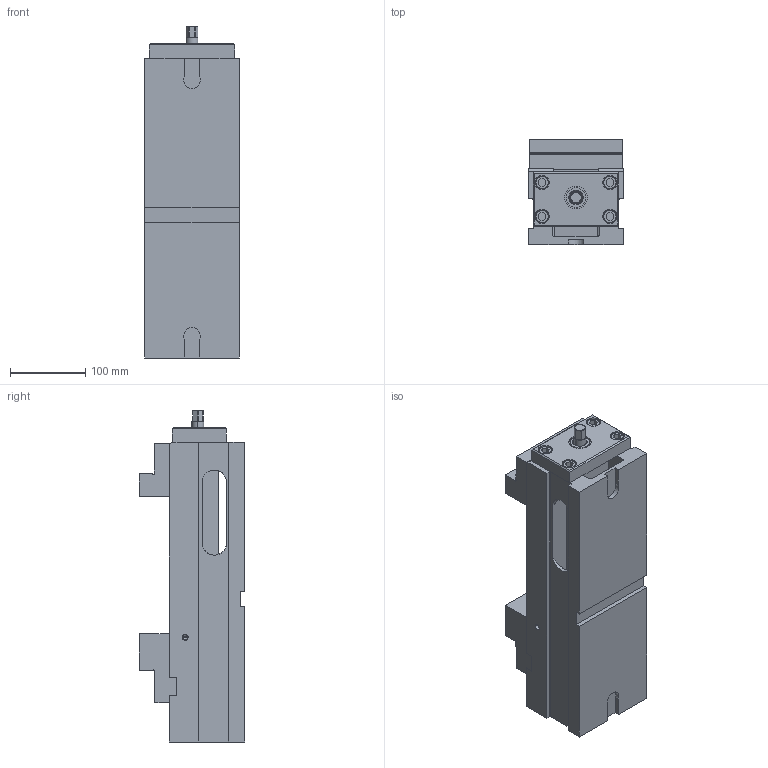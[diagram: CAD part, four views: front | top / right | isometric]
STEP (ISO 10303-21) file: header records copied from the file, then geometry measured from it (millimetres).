
FILE_DESCRIPTION((''),'2;1');
FILE_NAME('FG_VC_HIPR_00NC4NP001_ASM','2026-03-16T11:54:17',('Admin'),(''),'CREO PARAMETRIC BY PTC INC, 2025010','CREO PARAMETRIC BY PTC INC, 2025010','');
FILE_SCHEMA(('CONFIG_CONTROL_DESIGN'));
Length unit declared in the file: millimetre
Products named in the file (7): LC125_MACH; 3D-6921118000155-200; FG_VC_HIPR_C0055NP001; 3D-6921111001042; FG_VC_HIPR_C0054NP001; DIN912-M12X25-12_9; FG_VC_HIPR_00NC4NP001_ASM
Assembly tree (17 placements, depth 2):
  FG_VC_HIPR_00NC4NP001_ASM
    LC125_MACH
    3D-6921118000155-200
    FG_VC_HIPR_C0055NP001
    3D-6921111001042
    FG_VC_HIPR_C0054NP001
    DIN912-M12X25-12_9  x12
Bounding box: 126 x 139.58 x 440.7 mm (x, y, z)
Volume: 4142892.9 mm3; surface area: 598838 mm2
Topology: 17 solids, 49 shells, 724 faces, 1890 edges, 1246 vertices
Faces by surface type: plane 359, cylinder 257, cone 82, torus 26
Entity records: 16717 total; most frequent: CARTESIAN_POINT 3577, DIRECTION 2796, ORIENTED_EDGE 2560, EDGE_CURVE 1348, AXIS2_PLACEMENT_3D 1008, VERTEX_POINT 916, VECTOR 780, LINE 780
